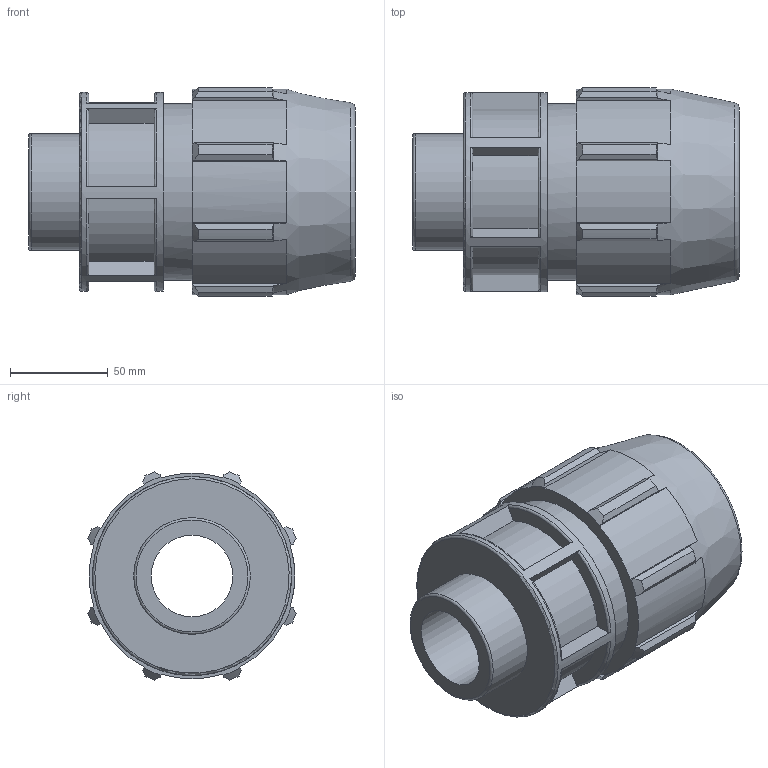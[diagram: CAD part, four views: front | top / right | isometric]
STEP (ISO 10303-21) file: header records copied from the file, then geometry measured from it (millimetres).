
FILE_DESCRIPTION(/* description */ ('PLASSON MALE ADAPTOR 2'''' - 2''''M'),/* implementation_level */ '2;1');
FILE_NAME(/* name */ 'C:\Dropbox\KIMPROJECTS-Inventor 2019\99-16-3568-Processing Inch\ASTM Compression 2021\0702M0T\0702M0T20020.ipt.stp',/* time_stamp */ '2021-08-26T12:30:29+03:00',/* author */ ('KIM'),/* organization */ (''),/* preprocessor_version */ 'ST-DEVELOPER v17.2',/* originating_system */ 'Autodesk Inventor 2019',/* authorisation */ '');
FILE_SCHEMA (('AUTOMOTIVE_DESIGN { 1 0 10303 214 3 1 1 }'));
Length unit declared in the file: inch
Products named in the file (1): 0702M0T20020
Bounding box: 166.88 x 106.35 x 106.35 mm (x, y, z)
Volume: 694245.8 mm3; surface area: 103958.6 mm2
Topology: 1 solids, 1 shells, 124 faces, 348 edges, 237 vertices
Faces by surface type: plane 63, cylinder 27, cone 19, torus 15
Full cylindrical faces by diameter (mm): 41.73 x1, 59.614 x1, 60.1 x1, 90.424 x1, 101.727 x1
Entity records: 4379 total; most frequent: CARTESIAN_POINT 990, ORIENTED_EDGE 696, DIRECTION 666, EDGE_CURVE 348, AXIS2_PLACEMENT_3D 249, VERTEX_POINT 237, LINE 168, VECTOR 168
